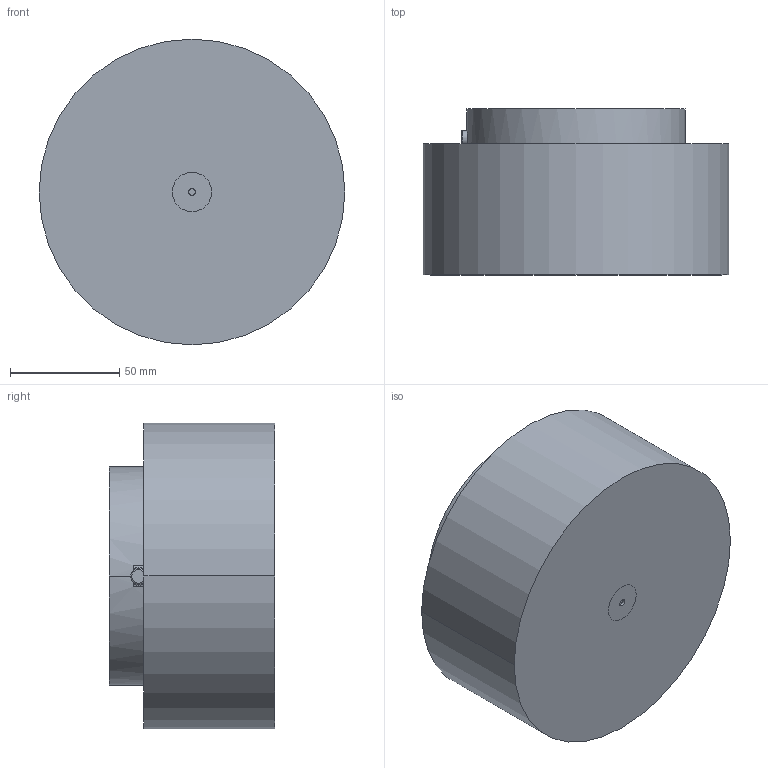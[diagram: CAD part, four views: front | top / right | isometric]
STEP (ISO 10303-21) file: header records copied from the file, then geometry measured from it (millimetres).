
FILE_DESCRIPTION((''),'2;1');
FILE_NAME('S44N102.stp','2020-09-19T08:41:40',(''),(''),'AutoCAD STEP 2000i','AutoCAD 2000i',', , ');
FILE_SCHEMA(('CONFIG_CONTROL_DESIGN'));
Length unit declared in the file: millimetre
Products named in the file (4): DRAWING1; MOLD BODY N44; NOZZLE S102N44; RING 44-2018
Assembly tree (3 placements, depth 2):
  DRAWING1
    MOLD BODY N44
    NOZZLE S102N44
    RING 44-2018
Bounding box: 140 x 76 x 140 mm (x, y, z)
Volume: 1025720.3 mm3; surface area: 99943.8 mm2
Topology: 3 solids, 3 shells, 143 faces, 338 edges, 215 vertices
Faces by surface type: cylinder 60, cone 40, plane 27, bspline 8, torus 8
Entity records: 4671 total; most frequent: CARTESIAN_POINT 1071, DIRECTION 822, ORIENTED_EDGE 672, AXIS2_PLACEMENT_3D 356, EDGE_CURVE 336, CIRCLE 217, VERTEX_POINT 215, EDGE_LOOP 171
